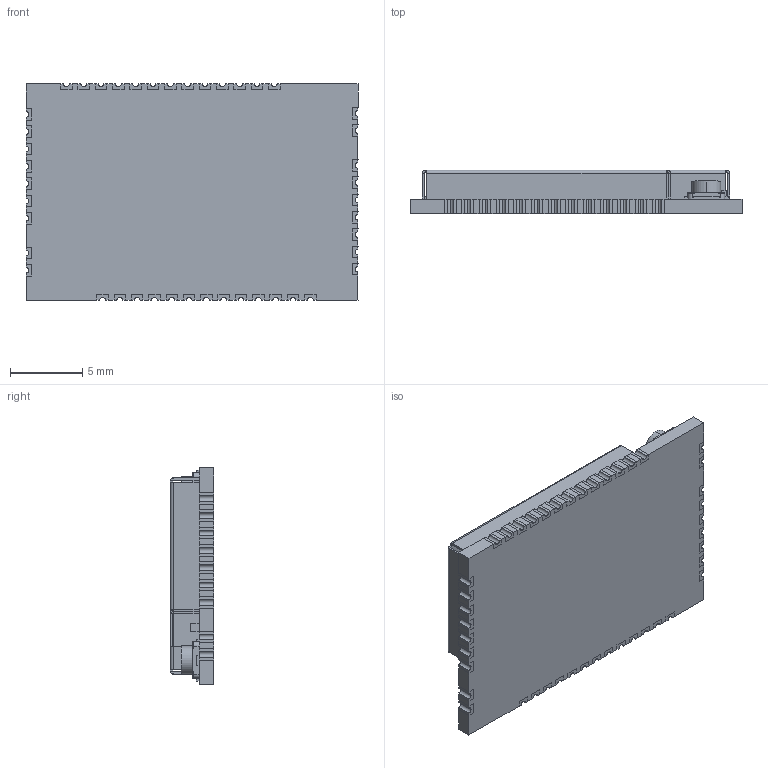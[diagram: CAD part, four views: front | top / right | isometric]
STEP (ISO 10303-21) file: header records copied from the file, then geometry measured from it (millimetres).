
FILE_DESCRIPTION (( 'STEP AP214' ), '1' );
FILE_NAME ('RAK4630.STEP', '2023-02-11T05:52:47', ( '' ), ( '' ), 'SwSTEP 2.0', 'SolidWorks 2021', '' );
FILE_SCHEMA (( 'AUTOMOTIVE_DESIGN' ));
Length unit declared in the file: millimetre
Products named in the file (1): RAK4630
Bounding box: 23 x 3 x 15 mm (x, y, z)
Volume: 405.4 mm3; surface area: 1729 mm2
Topology: 66 solids, 66 shells, 821 faces, 1967 edges, 1282 vertices
Faces by surface type: plane 692, cylinder 121, cone 4, torus 4
Entity records: 24062 total; most frequent: CARTESIAN_POINT 4071, ORIENTED_EDGE 3934, DIRECTION 3865, EDGE_CURVE 1967, LINE 1713, VECTOR 1713, VERTEX_POINT 1282, AXIS2_PLACEMENT_3D 1076
